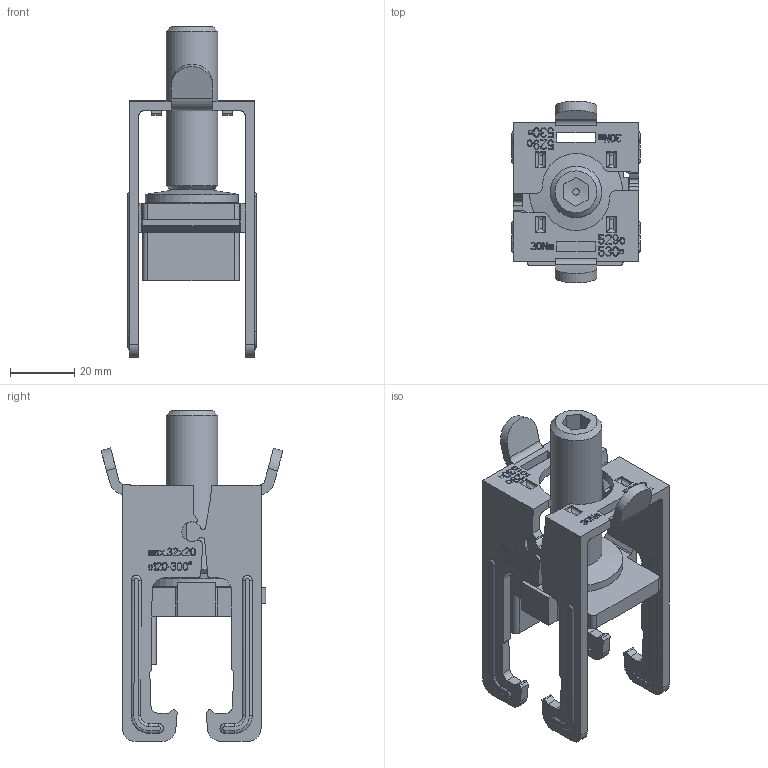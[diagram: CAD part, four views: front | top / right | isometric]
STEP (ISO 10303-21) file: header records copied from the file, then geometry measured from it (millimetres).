
FILE_DESCRIPTION (( 'STEP AP203' ), '1' );
FILE_NAME ('54759.STEP', '2021-08-13T08:32:48', ( '' ), ( '' ), 'SwSTEP 2.0', 'SolidWorks 2017', '' );
FILE_SCHEMA (( 'CONFIG_CONTROL_DESIGN' ));
Length unit declared in the file: millimetre
Products named in the file (2): 54759
Bounding box: 40 x 56.5 x 102.81 mm (x, y, z)
Volume: 40284.2 mm3; surface area: 24697.3 mm2
Topology: 5 solids, 5 shells, 2459 faces, 7015 edges, 4667 vertices
Faces by surface type: plane 2304, cylinder 115, bspline 34, cone 6
Full cylindrical faces by diameter (mm): 0.6 x2, 1 x2, 8.5 x1, 10 x2, 16 x1, 29 x1
Entity records: 82189 total; most frequent: CARTESIAN_POINT 18247, ORIENTED_EDGE 13994, DIRECTION 11850, EDGE_CURVE 6997, VECTOR 6684, LINE 6684, VERTEX_POINT 4664, AXIS2_PLACEMENT_3D 2583
